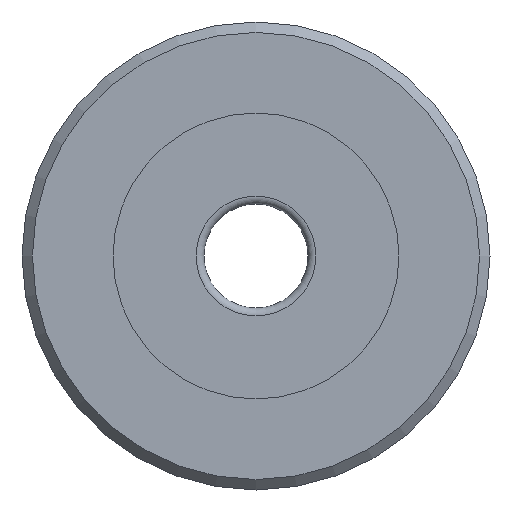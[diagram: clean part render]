
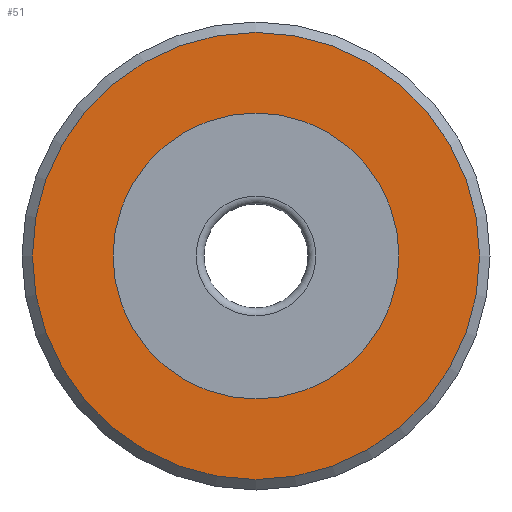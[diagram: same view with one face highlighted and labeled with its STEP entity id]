
A CAD part, left-side view. The second image highlights one B-rep face of the part: STEP entity #51.
In plain terms, the highlighted planar face has unit normal (-1, 0, 0).
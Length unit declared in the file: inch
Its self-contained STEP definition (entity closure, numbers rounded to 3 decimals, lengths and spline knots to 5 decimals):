
#24=CARTESIAN_POINT('',(11.,16.3,0.));
#25=VERTEX_POINT('',#24);
#26=CARTESIAN_POINT('',(11.,12.,0.));
#27=DIRECTION('',(-1.,0.,0.));
#28=DIRECTION('',(0.,1.,0.));
#29=AXIS2_PLACEMENT_3D('',#26,#27,#28);
#30=CIRCLE('',#29,4.3);
#31=EDGE_CURVE('',#25,#25,#30,.T.);
#32=ORIENTED_EDGE('',*,*,#31,.T.);
#33=EDGE_LOOP('',(#32));
#34=FACE_OUTER_BOUND('',#33,.T.);
#35=CARTESIAN_POINT('',(11.,14.75,0.));
#36=VERTEX_POINT('',#35);
#37=CARTESIAN_POINT('',(11.,12.,0.));
#38=DIRECTION('',(-1.,0.,0.));
#39=DIRECTION('',(0.,1.,0.));
#40=AXIS2_PLACEMENT_3D('',#37,#38,#39);
#41=CIRCLE('',#40,2.75);
#42=EDGE_CURVE('',#36,#36,#41,.T.);
#43=ORIENTED_EDGE('',*,*,#42,.F.);
#44=EDGE_LOOP('',(#43));
#45=FACE_BOUND('',#44,.T.);
#46=CARTESIAN_POINT('',(11.,15.525,0.));
#47=DIRECTION('',(-1.,0.,0.));
#48=DIRECTION('',(0.,1.,0.));
#49=AXIS2_PLACEMENT_3D('',#46,#47,#48);
#50=PLANE('',#49);
#51=ADVANCED_FACE('',(#34,#45),#50,.T.);
